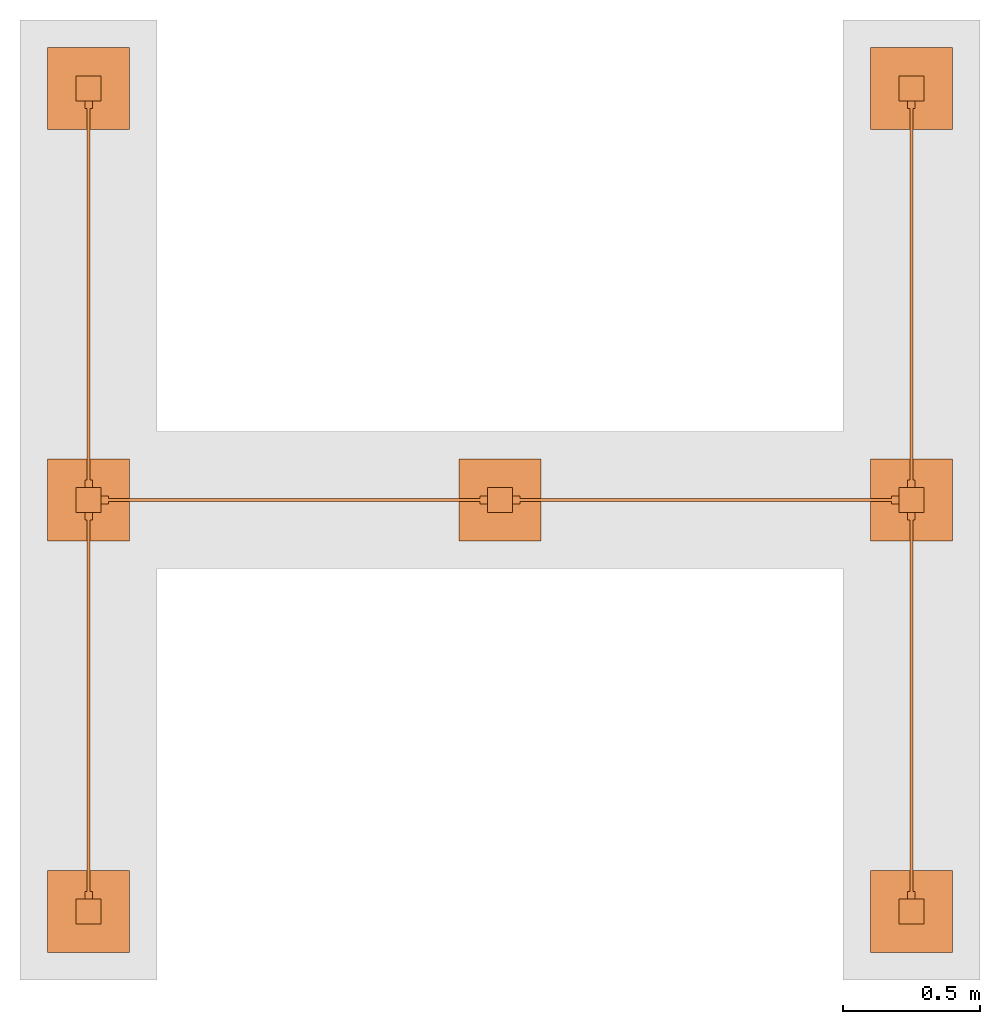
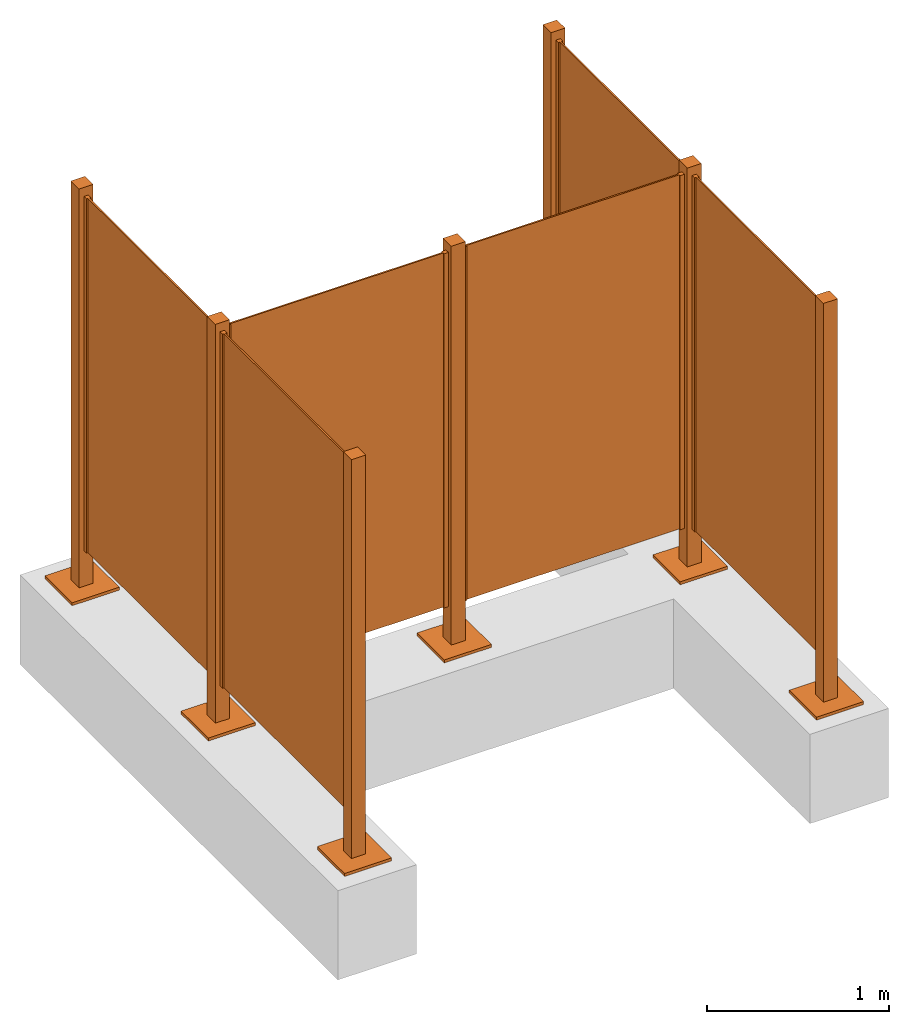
# One storey, part 2 of 2: 1 proxy.
"""IFC4 building model written with IfcOpenShell, lengths in metres."""

from ifc_helpers import new_model, entity, si_unit, converted_unit, direction, frame, frame_2d, origin, origin_2d_with_axis, place, context, subcontext, project, spatial, rectangle, extrude, source, transform, mapped, material, constituent, constituent_set, type_object, type_shapes, element, save


model = new_model("IFC4")

# Units and contexts
model_context = context("Model", 3, precision=1e-05, world=origin(), true_north=direction((6.123031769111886e-17, 1.0)))
body_context = subcontext(model_context, "Body", "Model", "MODEL_VIEW")
ifc_project = project(units=[si_unit("LENGTHUNIT", "METRE"), converted_unit("PLANEANGLEUNIT", "DEGREE", entity("IfcPlaneAngleMeasure", 0.017453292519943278), si_unit("PLANEANGLEUNIT", "RADIAN"), dimensions=[0, 0, 0, 0, 0, 0, 0]), si_unit("AREAUNIT", "SQUARE_METRE")], contexts=[model_context])

# Site, building, storey
site_placement = place(None, origin())
site = spatial("IfcSite", under=ifc_project, at=site_placement, Name="Default", CompositionType="ELEMENT")
building_placement = place(site_placement, origin())
building = spatial("IfcBuilding", under=site, at=building_placement, CompositionType="ELEMENT")
storey_placement = place(building_placement, origin())
storey = spatial("IfcBuildingStorey", under=building, at=storey_placement, Name="Ebene 0", CompositionType="ELEMENT", Elevation=0.0)

# Proxy
ifc_material_1 = material(Name="DB_Aluminium_RAL7035", Category="DB_Aluminium")
ifc_constituent_1 = constituent(ifc_material_1, Name="DB_Aluminium_RAL7035", Category="DB_Aluminium")
ifc_material_2 = material(Name="DB_ESG/VSG_klar", Category="DB_Glas")
ifc_constituent_2 = constituent(ifc_material_2, Name="DB_ESG/VSG_klar", Category="DB_Glas")
ifc_material_3 = material(Name="DB_Aluminium_RAL9007", Category="DB_Aluminium")
ifc_constituent_3 = constituent(ifc_material_3, Name="DB_Aluminium_RAL9007", Category="DB_Aluminium")
ifc_material_4 = material(Name="DB_Stahl_verzinkt_RAL9006", Category="DB_Stahl")
ifc_constituent_4 = constituent(ifc_material_4, Name="DB_Stahl_verzinkt_RAL9006", Category="DB_Stahl")
ifc_constituent_set_1 = constituent_set(constituents=[ifc_constituent_1, ifc_constituent_2, ifc_constituent_3, ifc_constituent_4])
ifc_constituent_5 = constituent(ifc_material_1, Name="DB_FAM_Volumen", Category="DB_Aluminium")
ifc_constituent_6 = constituent(ifc_material_2, Name="DB_FAM_Volumen", Category="DB_Glas")
ifc_constituent_7 = constituent(ifc_material_3, Name="DB_FAM_Volumen", Category="DB_Aluminium")
ifc_constituent_8 = constituent(ifc_material_4, Name="DB_FAM_Volumen", Category="DB_Stahl")
ifc_constituent_set_2 = constituent_set(constituents=[ifc_constituent_5, ifc_constituent_6, ifc_constituent_7, ifc_constituent_8])
building_element_proxy_type = type_object("IfcBuildingElementProxyType", Name="DB_Windschutz 2-feldrig H-Form:DB_Windschutz 2-feldrig H-Form", PredefinedType="NOTDEFINED", material=ifc_constituent_set_2)
shared_shape = source(origin(), body_context, "Body", "SweptSolid", [
    extrude(rectangle(XDim=0.02760000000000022, YDim=0.027499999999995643, at=frame_2d((-2.706168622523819e-16, 0.0), x_axis=(1.0, 0.0))), frame((4.500000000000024, 2.3412500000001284, 0.0600000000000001), z_axis=(0.0, 0.0, 1.0), x_axis=(-1.0, 0.0, 0.0)), (0.0, 0.0, 1.0), 2.3800000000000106),
    extrude(rectangle(XDim=0.02759999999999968, YDim=0.027499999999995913, at=frame_2d((2.706168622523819e-16, 0.0), x_axis=(1.0, 0.0))), frame((4.500000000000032, 0.9587500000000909, 0.0600000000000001), z_axis=(0.0, 0.0, 1.0), x_axis=(-1.0, 0.0, 0.0)), (0.0, 0.0, 1.0), 2.3800000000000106),
    extrude(rectangle(XDim=1.3550000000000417, YDim=0.009999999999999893, at=frame_2d((5.551115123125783e-17, 0.0), x_axis=(1.0, 0.0))), frame((4.500000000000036, 1.6500000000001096, 0.05999999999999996), z_axis=(0.0, 0.0, 1.0), x_axis=(0.0, 1.0, 0.0)), (0.0, 0.0, 1.0), 2.3800000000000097),
    extrude(rectangle(XDim=0.02760000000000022, YDim=0.027499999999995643, at=frame_2d((-1.3530843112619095e-16, 0.0), x_axis=(1.0, 0.0))), frame((1.4999999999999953, 2.3412500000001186, 0.0600000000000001), z_axis=(0.0, 0.0, 1.0), x_axis=(-1.0, 0.0, 0.0)), (0.0, 0.0, 1.0), 2.3800000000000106),
    extrude(rectangle(XDim=0.02759999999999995, YDim=0.027499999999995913, at=frame_2d((0.0, 6.765421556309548e-17), x_axis=(1.0, 0.0))), frame((1.5000000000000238, 0.958750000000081, 0.0600000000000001), z_axis=(0.0, 0.0, 1.0), x_axis=(-1.0, 0.0, 0.0)), (0.0, 0.0, 1.0), 2.3800000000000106),
    extrude(rectangle(XDim=1.3550000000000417, YDim=0.010000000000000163, at=frame_2d((-1.1102230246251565e-16, -1.3530843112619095e-16), x_axis=(1.0, 0.0))), frame((1.5000000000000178, 1.6500000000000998, 0.05999999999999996), z_axis=(0.0, 0.0, 1.0), x_axis=(0.0, 1.0, 0.0)), (0.0, 0.0, 1.0), 2.3800000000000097),
    extrude(rectangle(XDim=0.027499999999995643, YDim=0.02760000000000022, at=frame_2d((0.0, -2.706168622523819e-16), x_axis=(1.0, 0.0))), frame((4.500000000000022, -0.5412500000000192, 0.05999999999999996), z_axis=(0.0, 0.0, 1.0), x_axis=(0.0, 1.0, 0.0)), (0.0, 0.0, 1.0), 2.3800000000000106),
    extrude(rectangle(XDim=0.027499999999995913, YDim=0.02759999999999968, at=frame_2d((0.0, 2.706168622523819e-16), x_axis=(1.0, 0.0))), frame((4.500000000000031, 0.8412500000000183, 0.05999999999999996), z_axis=(0.0, 0.0, 1.0), x_axis=(0.0, 1.0, 0.0)), (0.0, 0.0, 1.0), 2.3800000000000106),
    extrude(rectangle(XDim=0.00999999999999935, YDim=1.3550000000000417, at=origin_2d_with_axis()), frame((4.500000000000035, 0.14999999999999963, 0.059999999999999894), z_axis=(0.0, 0.0, 1.0), x_axis=(-1.0, 0.0, 0.0)), (0.0, 0.0, 1.0), 2.38000000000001),
    extrude(rectangle(XDim=0.027499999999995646, YDim=0.02760000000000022, at=frame_2d((0.0, -1.3530843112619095e-16), x_axis=(1.0, 0.0))), frame((1.4999999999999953, -0.5412500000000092, 0.05999999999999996), z_axis=(0.0, 0.0, 1.0), x_axis=(0.0, 1.0, 0.0)), (0.0, 0.0, 1.0), 2.3800000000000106),
    extrude(rectangle(XDim=0.027499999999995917, YDim=0.02759999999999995, at=frame_2d((-6.765421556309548e-17, -2.706168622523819e-16), x_axis=(1.0, 0.0))), frame((1.5000000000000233, 0.8412500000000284, 0.05999999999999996), z_axis=(0.0, 0.0, 1.0), x_axis=(0.0, 1.0, 0.0)), (0.0, 0.0, 1.0), 2.3800000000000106),
    extrude(rectangle(XDim=0.00999999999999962, YDim=1.3550000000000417, at=origin_2d_with_axis()), frame((1.5000000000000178, 0.15000000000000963, 0.059999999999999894), z_axis=(0.0, 0.0, 1.0), x_axis=(-1.0, 0.0, 0.0)), (0.0, 0.0, 1.0), 2.38000000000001),
    extrude(rectangle(XDim=0.027499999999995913, YDim=0.027600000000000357, at=origin_2d_with_axis()), frame((4.441250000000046, 0.9000000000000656, 0.05999999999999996), z_axis=(0.0, 0.0, 1.0), x_axis=(-1.0, 0.0, 0.0)), (0.0, 0.0, 1.0), 2.3800000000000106),
    extrude(rectangle(XDim=0.027499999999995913, YDim=0.027600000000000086, at=origin_2d_with_axis()), frame((3.0587500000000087, 0.9000000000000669, 0.05999999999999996), z_axis=(0.0, 0.0, 1.0), x_axis=(-1.0, 0.0, 0.0)), (0.0, 0.0, 1.0), 2.3800000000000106),
    extrude(rectangle(XDim=0.009999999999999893, YDim=1.3550000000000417, at=frame_2d((-6.765421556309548e-17, 0.0), x_axis=(1.0, 0.0))), frame((3.7500000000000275, 0.9000000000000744, 0.059999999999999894), z_axis=(0.0, 0.0, 1.0), x_axis=(0.0, -1.0, 0.0)), (0.0, 0.0, 1.0), 2.38000000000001),
    extrude(rectangle(XDim=0.027499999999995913, YDim=0.027600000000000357, at=origin_2d_with_axis()), frame((2.941250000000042, 0.9000000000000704, 0.05999999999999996), z_axis=(0.0, 0.0, 1.0), x_axis=(-1.0, 0.0, 0.0)), (0.0, 0.0, 1.0), 2.3800000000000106),
    extrude(rectangle(XDim=0.027499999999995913, YDim=0.027600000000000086, at=frame_2d((1.3530843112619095e-16, -1.3530843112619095e-16), x_axis=(1.0, 0.0))), frame((1.558750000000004, 0.9000000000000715, 0.05999999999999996), z_axis=(0.0, 0.0, 1.0), x_axis=(-1.0, 0.0, 0.0)), (0.0, 0.0, 1.0), 2.3800000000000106),
    extrude(rectangle(XDim=0.009999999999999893, YDim=1.3550000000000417, at=frame_2d((-6.765421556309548e-17, 0.0), x_axis=(1.0, 0.0))), frame((2.250000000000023, 0.9000000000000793, 0.059999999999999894), z_axis=(0.0, 0.0, 1.0), x_axis=(0.0, -1.0, 0.0)), (0.0, 0.0, 1.0), 2.38000000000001),
    extrude(rectangle(XDim=0.09000000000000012, YDim=0.09000000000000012, at=origin_2d_with_axis()), frame((4.500000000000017, 0.8999999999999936, 0.0), z_axis=(0.0, 0.0, 1.0), x_axis=(0.0, 1.0, 0.0)), (0.0, 0.0, 1.0), 2.5000000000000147),
    extrude(rectangle(XDim=0.08999999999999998, YDim=0.09000000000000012, at=frame_2d((-6.938893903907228e-17, 0.0), x_axis=(1.0, 0.0))), frame((3.0, 0.8999999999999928, 0.0), z_axis=(0.0, 0.0, 1.0), x_axis=(0.0, 1.0, 0.0)), (0.0, 0.0, 1.0), 2.5000000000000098),
    extrude(rectangle(XDim=0.09000000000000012, YDim=0.09000000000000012, at=origin_2d_with_axis()), frame((1.5000000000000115, 0.9000000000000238, 0.0), z_axis=(0.0, 0.0, 1.0), x_axis=(0.0, 1.0, 0.0)), (0.0, 0.0, 1.0), 2.500000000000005),
    extrude(rectangle(XDim=0.2999999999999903, YDim=0.3000000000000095, at=frame_2d((0.0, -6.938893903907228e-17), x_axis=(1.0, 0.0))), frame((1.5000000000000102, 0.8999999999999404, -0.19999999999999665), z_axis=(0.0, 0.0, 1.0), x_axis=(-1.0, 0.0, 0.0)), (0.0, 0.0, 1.0), 0.019999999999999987),
    extrude(rectangle(XDim=0.29999999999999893, YDim=0.3000000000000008, at=origin_2d_with_axis()), frame((4.500000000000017, 0.8999999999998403, -0.19999999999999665), z_axis=(0.0, 0.0, 1.0), x_axis=(-1.0, 0.0, 0.0)), (0.0, 0.0, 1.0), 0.019999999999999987),
    extrude(rectangle(XDim=0.3000000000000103, YDim=0.30000000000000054, at=frame_2d((-2.7755575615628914e-16, 0.0), x_axis=(1.0, 0.0))), frame((3.0, 0.8999999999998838, -0.19999999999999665), z_axis=(0.0, 0.0, 1.0), x_axis=(-1.0, 0.0, 0.0)), (0.0, 0.0, 1.0), 0.019999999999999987),
    extrude(rectangle(XDim=0.08999999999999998, YDim=0.08999999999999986, at=frame_2d((6.938893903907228e-17, -1.3530843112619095e-16), x_axis=(1.0, 0.0))), frame((1.500000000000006, -0.5999999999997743, 0.0), z_axis=(0.0, 0.0, 1.0), x_axis=(0.0, 1.0, 0.0)), (0.0, 0.0, 1.0), 2.5),
    extrude(rectangle(XDim=0.08999999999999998, YDim=0.08999999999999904, at=frame_2d((6.938893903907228e-17, 0.0), x_axis=(1.0, 0.0))), frame((4.5000000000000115, -0.5999999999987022, 0.0), z_axis=(0.0, 0.0, 1.0), x_axis=(0.0, 1.0, 0.0)), (0.0, 0.0, 1.0), 2.5000000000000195),
    extrude(rectangle(XDim=0.29999999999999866, YDim=0.2999999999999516, at=frame_2d((0.0, -1.3877787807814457e-16), x_axis=(1.0, 0.0))), frame((1.5000000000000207, -0.600000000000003, -0.19999999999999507), z_axis=(0.0, 0.0, 1.0), x_axis=(0.0, -1.0, 0.0)), (0.0, 0.0, 1.0), 0.019999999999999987),
    extrude(rectangle(XDim=0.3000000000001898, YDim=0.2999999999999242, at=origin_2d_with_axis()), frame((4.499999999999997, -0.5999999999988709, -0.19999999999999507), z_axis=(0.0, 0.0, 1.0), x_axis=(0.0, -1.0, 0.0)), (0.0, 0.0, 1.0), 0.019999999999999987),
    extrude(rectangle(XDim=0.08999999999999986, YDim=0.08999999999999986, at=frame_2d((-1.3530843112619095e-16, -1.3530843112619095e-16), x_axis=(1.0, 0.0))), frame((1.5000000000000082, 2.399999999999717, 0.0), z_axis=(0.0, 0.0, 1.0), x_axis=(-1.0, 0.0, 0.0)), (0.0, 0.0, 1.0), 2.5),
    extrude(rectangle(XDim=0.2999999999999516, YDim=0.2999999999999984, at=frame_2d((-1.3877787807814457e-16, 0.0), x_axis=(1.0, 0.0))), frame((1.5000000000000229, 2.399999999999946, -0.19999999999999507)), (0.0, 0.0, 1.0), 0.019999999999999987),
    extrude(rectangle(XDim=0.2999999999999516, YDim=0.2999999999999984, at=frame_2d((-1.3877787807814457e-16, 0.0), x_axis=(1.0, 0.0))), frame((1.5000000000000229, 2.399999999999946, -0.19999999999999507)), (0.0, 0.0, 1.0), 0.019999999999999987),
    extrude(rectangle(XDim=0.2999999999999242, YDim=0.3000000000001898, at=frame_2d((0.0, -1.3877787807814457e-16), x_axis=(1.0, 0.0))), frame((4.499999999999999, 2.3999999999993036, -0.19999999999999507)), (0.0, 0.0, 1.0), 0.019999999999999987),
    extrude(rectangle(XDim=0.08999999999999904, YDim=0.08999999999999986, at=frame_2d((0.0, 1.3530843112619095e-16), x_axis=(1.0, 0.0))), frame((4.500000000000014, 2.3999999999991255, 0.0), z_axis=(0.0, 0.0, 1.0), x_axis=(-1.0, 0.0, 0.0)), (0.0, 0.0, 1.0), 2.5000000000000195),
    extrude(rectangle(XDim=0.09000000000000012, YDim=0.09000000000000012, at=origin_2d_with_axis()), frame((4.500000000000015, 0.9000000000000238, -0.18000000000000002), z_axis=(0.0, 0.0, 1.0), x_axis=(0.0, 1.0, 0.0)), (0.0, 0.0, 1.0), 0.1799999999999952),
    extrude(rectangle(XDim=0.09000000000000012, YDim=0.09000000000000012, at=origin_2d_with_axis()), frame((3.0, 0.9000000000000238, -0.18000000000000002), z_axis=(0.0, 0.0, 1.0), x_axis=(0.0, 1.0, 0.0)), (0.0, 0.0, 1.0), 0.1800000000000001),
    extrude(rectangle(XDim=0.08999999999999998, YDim=0.0899999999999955, at=frame_2d((-6.938893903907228e-17, -1.3530843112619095e-16), x_axis=(1.0, 0.0))), frame((1.5000000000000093, 0.8999999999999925, -0.18000000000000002), z_axis=(0.0, 0.0, 1.0), x_axis=(0.0, 1.0, 0.0)), (0.0, 0.0, 1.0), 0.1799999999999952),
    extrude(rectangle(XDim=0.08999999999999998, YDim=0.08999999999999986, at=frame_2d((0.0, -1.3530843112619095e-16), x_axis=(1.0, 0.0))), frame((1.500000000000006, -0.599999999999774, -0.18000000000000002), z_axis=(0.0, 0.0, 1.0), x_axis=(0.0, 1.0, 0.0)), (0.0, 0.0, 1.0), 0.1799999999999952),
    extrude(rectangle(XDim=0.08999999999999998, YDim=0.08999999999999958, at=frame_2d((0.0, -2.706168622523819e-16), x_axis=(1.0, 0.0))), frame((4.500000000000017, -0.5999999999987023, -0.18000000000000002), z_axis=(0.0, 0.0, 1.0), x_axis=(0.0, 1.0, 0.0)), (0.0, 0.0, 1.0), 0.1799999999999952),
    extrude(rectangle(XDim=0.08999999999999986, YDim=0.08999999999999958, at=frame_2d((-1.3530843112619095e-16, 2.706168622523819e-16), x_axis=(1.0, 0.0))), frame((1.5000000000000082, 2.3999999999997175, -0.18000000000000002), z_axis=(0.0, 0.0, 1.0), x_axis=(-1.0, 0.0, 0.0)), (0.0, 0.0, 1.0), 0.1799999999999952),
    extrude(rectangle(XDim=0.08999999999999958, YDim=0.09000000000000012, at=frame_2d((-2.706168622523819e-16, 0.0), x_axis=(1.0, 0.0))), frame((4.500000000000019, 2.3999999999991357, -0.18000000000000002), z_axis=(0.0, 0.0, 1.0), x_axis=(-1.0, 0.0, 0.0)), (0.0, 0.0, 1.0), 0.1799999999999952),
])
type_shapes(building_element_proxy_type, [shared_shape])
proxy_placement = place(storey_placement, frame((-1.500000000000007, 0.5999999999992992, 0.800000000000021)))
element("IfcBuildingElementProxy", 1, at=proxy_placement, inside=storey, type_object=building_element_proxy_type, material=ifc_constituent_set_1, Name="DB_Windschutz 2-feldrig H-Form:DB_Windschutz 2-feldrig H-Form", ObjectType="DB_Windschutz 2-feldrig H-Form:DB_Windschutz 2-feldrig H-Form", PredefinedType="NOTDEFINED", context=body_context, shape_type="MappedRepresentation", body=[
    mapped(shared_shape, transform((0.0, 0.0, 0.0), scale=1.0)),
])

save(model, "model.ifc")
